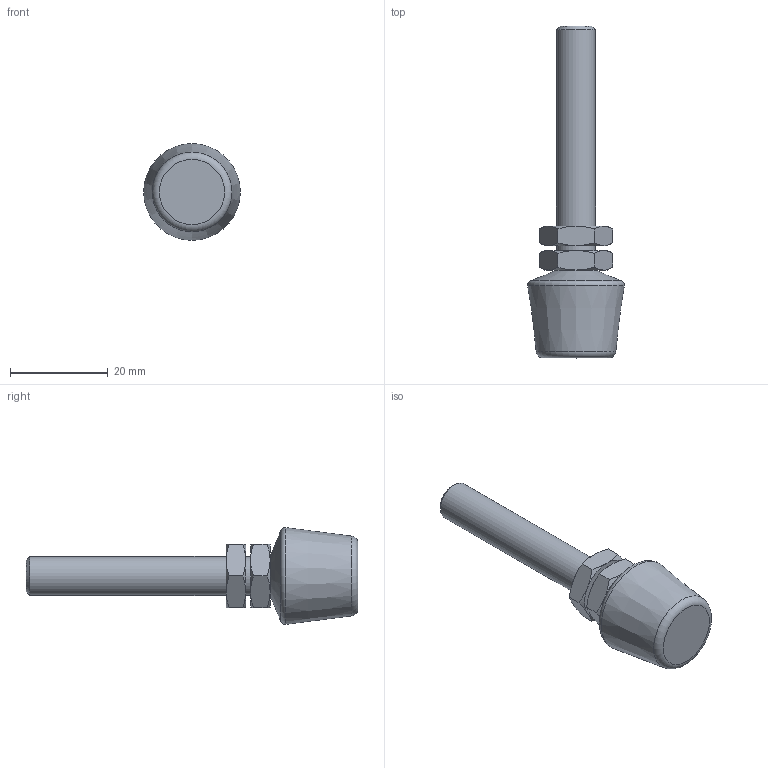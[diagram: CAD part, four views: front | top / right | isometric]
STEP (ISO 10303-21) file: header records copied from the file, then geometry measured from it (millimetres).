
FILE_DESCRIPTION( ( 'STEP AP203' ), '1' );
FILE_NAME( 'C:/Temp/Ganter_Step_05_03_2020/data/2_4/gn_708_1/gn_708_1_st/Clamping bolt GN 708.1-M8-68-A-ST (0).stp', '2020-03-13T05:51:07', ( 'License CC BY-ND 4.0' ), ( 'CADENAS' ), ' ', 'PARTsolutions', ' ' );
FILE_SCHEMA( ( 'CONFIG_CONTROL_DESIGN' ) );
Length unit declared in the file: millimetre
Products named in the file (3): Clamping bolt GN 708.1-M8-68-A-ST (0); _Andrueckschraube GN 708.1-M8-68-A-ST (0)-1; _Andrueckschraube GN 708.1-M8-68-A-ST2
Assembly tree (3 placements, depth 2):
  Clamping bolt GN 708.1-M8-68-A-ST (0)
    _Andrueckschraube GN 708.1-M8-68-A-ST (0)-1
    _Andrueckschraube GN 708.1-M8-68-A-ST2  x2
Bounding box: 19.82 x 68 x 19.82 mm (x, y, z)
Volume: 7714.4 mm3; surface area: 3542.3 mm2
Topology: 3 solids, 3 shells, 54 faces, 111 edges, 63 vertices
Faces by surface type: cone 31, plane 18, cylinder 3, torus 2
Full cylindrical faces by diameter (mm): 6.647 x2, 8 x1
Entity records: 954 total; most frequent: CARTESIAN_POINT 260, DIRECTION 122, ORIENTED_EDGE 106, AXIS2_PLACEMENT_3D 58, EDGE_CURVE 53, EDGE_LOOP 42, VERTEX_POINT 36, FACE_OUTER_BOUND 35
